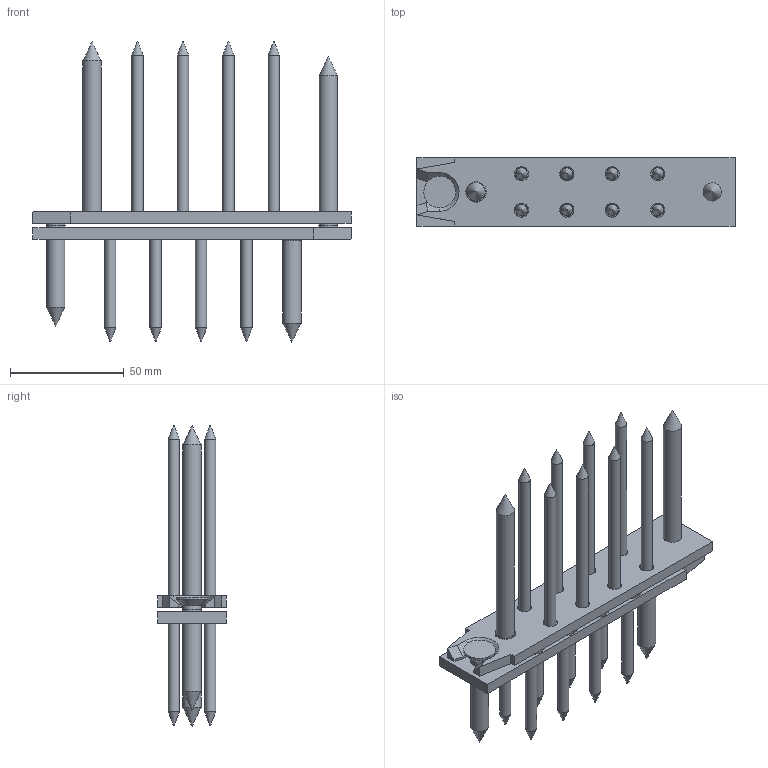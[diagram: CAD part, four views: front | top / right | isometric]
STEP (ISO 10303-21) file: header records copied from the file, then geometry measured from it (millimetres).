
FILE_DESCRIPTION(/* description */ ('Unknown'),/* implementation_level */ '2;1');
FILE_NAME(/* name */ 'RICON Edelstahl_140x30_EA',/* time_stamp */ '2022-02-08T08:34:37+01:00',/* author */ ('Unknown'),/* organization */ ('Unknown'),/* preprocessor_version */ 'ST-DEVELOPER v16.7',/* originating_system */ 'Solid Edge',/* authorisation */ 'Unknown');
FILE_SCHEMA (('AUTOMOTIVE_DESIGN {1 0 10303 214 3 1 1}'));
Length unit declared in the file: millimetre
Products named in the file (6): RICON_30x140_zusammenbau_mit Fase; RICON_30x140_mit Fase; SK_Schraube_5x50; SK_Schraube_8x50; SK_Schraube_5x80; SK_Schraube_8x80
Assembly tree (22 placements, depth 2):
  RICON_30x140_zusammenbau_mit Fase
    RICON_30x140_mit Fase  x2
    SK_Schraube_5x50  x8
    SK_Schraube_8x50  x2
    SK_Schraube_5x80  x8
    SK_Schraube_8x80  x2
Bounding box: 140 x 30 x 132.5 mm (x, y, z)
Volume: 66910.3 mm3; surface area: 44621.9 mm2
Topology: 22 solids, 22 shells, 236 faces, 476 edges, 300 vertices
Faces by surface type: plane 94, cylinder 82, cone 60
Full cylindrical faces by diameter (mm): 5 x16, 6 x16, 6.2 x16, 8 x6, 8.3 x4, 9.1 x2, 10 x8, 10.2 x8, 14 x4
Entity records: 1996 total; most frequent: DIRECTION 352, CARTESIAN_POINT 292, ORIENTED_EDGE 216, AXIS2_PLACEMENT_3D 151, FACE_BOUND 133, EDGE_LOOP 131, EDGE_CURVE 108, VERTEX_POINT 91
